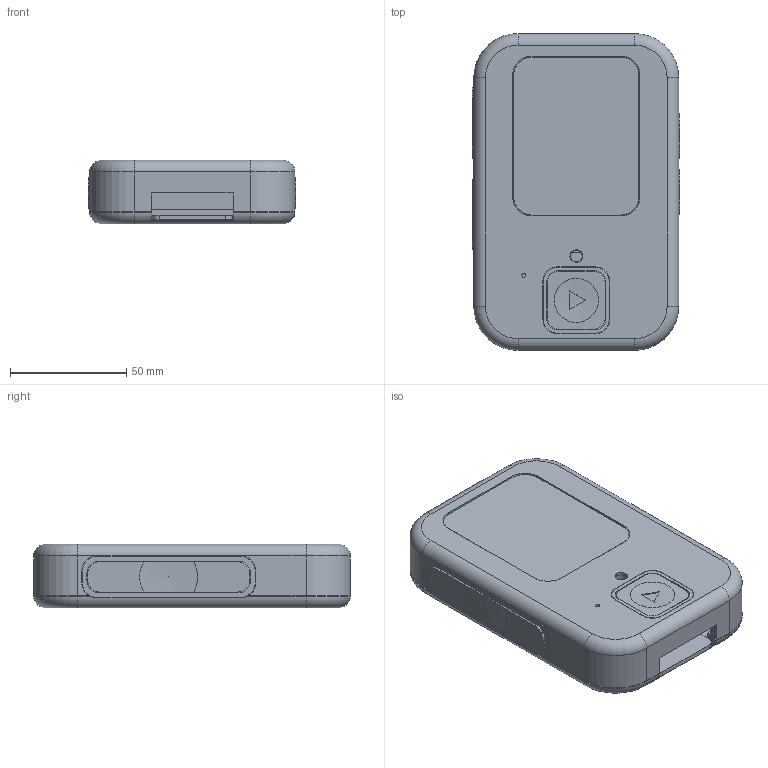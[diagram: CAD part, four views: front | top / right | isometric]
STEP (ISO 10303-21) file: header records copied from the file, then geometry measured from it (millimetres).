
FILE_DESCRIPTION(('Open CASCADE Model'),'2;1');
FILE_NAME('Open CASCADE Shape Model','2026-09-06T11:39:29',('Author'),( 'Open CASCADE'),'Open CASCADE STEP processor 7.7','Open CASCADE 7.7' ,'Unknown');
FILE_SCHEMA(('AUTOMOTIVE_DESIGN { 1 0 10303 214 1 1 1 1 }'));
Length unit declared in the file: millimetre
Products named in the file (70): Walkie_One_20_2_R8_Astra; 01_front_structural_tub; 01_front_structural_tub_part; 02_rear_structural_cover; 02_rear_structural_cover_part; 03_front_soft_touch_skin; 03_front_soft_touch_skin_part; 04_rear_soft_touch_skin; 04_rear_soft_touch_skin_part; 05_grille_backing_and_bond_flange; 05_grille_backing_and_bond_flange_part; 06_acoustic_fabric_cut_pattern; 06_acoustic_fabric_cut_pattern_part; 07_speaker_edge_cradle; 07_speaker_edge_cradle_part; 08_speaker_front_gasket; 08_speaker_front_gasket_part; 09_battery_tray; 09_battery_tray_part; 10_ptt_key; 10_ptt_key_part; 11_ptt_metal_rim; 11_ptt_metal_rim_part; 12_ptt_switch_carrier; 12_ptt_switch_carrier_part; 10_volume_plus_key; 10_volume_plus_key_part; 11_volume_plus_metal_rim; 11_volume_plus_metal_rim_part; 12_volume_plus_switch_carrier; 12_volume_plus_switch_carrier_part; 10_volume_minus_key; 10_volume_minus_key_part; 11_volume_minus_metal_rim; 11_volume_minus_metal_rim_part; 12_volume_minus_switch_carrier; 12_volume_minus_switch_carrier_part; 13_front_concave_action_key; 13_front_concave_action_key_part; 14_front_action_metal_rim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
Assembly tree (69 placements, depth 4):
  Walkie_One_20_2_R8_Astra
    Walkie_One_20_2_R8_Astra
      01_front_structural_tub
        01_front_structural_tub_part
      02_rear_structural_cover
        02_rear_structural_cover_part
      03_front_soft_touch_skin
        03_front_soft_touch_skin_part
      04_rear_soft_touch_skin
        04_rear_soft_touch_skin_part
      05_grille_backing_and_bond_flange
        05_grille_backing_and_bond_flange_part
      06_acoustic_fabric_cut_pattern
        06_acoustic_fabric_cut_pattern_part
      07_speaker_edge_cradle
        07_speaker_edge_cradle_part
      08_speaker_front_gasket
        08_speaker_front_gasket_part
      09_battery_tray
        09_battery_tray_part
      10_ptt_key
        10_ptt_key_part
      11_ptt_metal_rim
        11_ptt_metal_rim_part
      12_ptt_switch_carrier
        12_ptt_switch_carrier_part
      10_volume_plus_key
        10_volume_plus_key_part
      11_volume_plus_metal_rim
        11_volume_plus_metal_rim_part
      12_volume_plus_switch_carrier
        12_volume_plus_switch_carrier_part
      10_volume_minus_key
        10_volume_minus_key_part
      11_volume_minus_metal_rim
        11_volume_minus_metal_rim_part
      12_volume_minus_switch_carrier
        12_volume_minus_switch_carrier_part
      13_front_concave_action_key
        13_front_concave_action_key_part
      14_front_action_metal_rim
        14_front_action_metal_rim_part
      15_front_switch_carrier
        15_front_switch_carrier_part
      15b_front_switch_retainer
        15b_front_switch_retainer_part
      16_rgb_led_support_ring
        16_rgb_led_support_ring_part
      17_microphone_cradle
        17_microphone_cradle_part
      18_microphone_acoustic_gasket
        18_microphone_acoustic_gasket_part
      19_lte_antenna_seat
        19_lte_antenna_seat_part
      20_service_notch_cover
        20_service_notch_cover_part
      21_ptt_stop_cassette
        21_ptt_stop_cassette_part
      21_volume_plus_stop_cassette
        21_volume_plus_stop_cassette_part
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Bounding box: 89.16 x 136 x 27.2 mm (x, y, z)
Volume: 110702.7 mm3; surface area: 160012.4 mm2
Topology: 34 solids, 34 shells, 11895 faces, 35048 edges, 23339 vertices
Faces by surface type: plane 11204, cylinder 655, torus 32, sphere 4
Full cylindrical faces by diameter (mm): 1.1 x2, 1.25 x10, 1.4 x8, 1.5 x4, 1.6 x12, 1.8 x13, 2.1 x3, 2.6 x8, 2.8 x4, 3.6 x14, 4 x3, 4.6 x2, 5 x1, 5.3 x8, 5.4 x2, 6 x1, 6.2 x1, 6.3 x1, 6.8 x4, 8.4 x1, 36.4 x1, 39.6 x1
Entity records: 849603 total; most frequent: CARTESIAN_POINT 145517, DIRECTION 129733, LINE 101903, VECTOR 101903, ORIENTED_EDGE 70094, PCURVE 70094, DEFINITIONAL_REPRESENTATION 70094, EDGE_CURVE 35047
